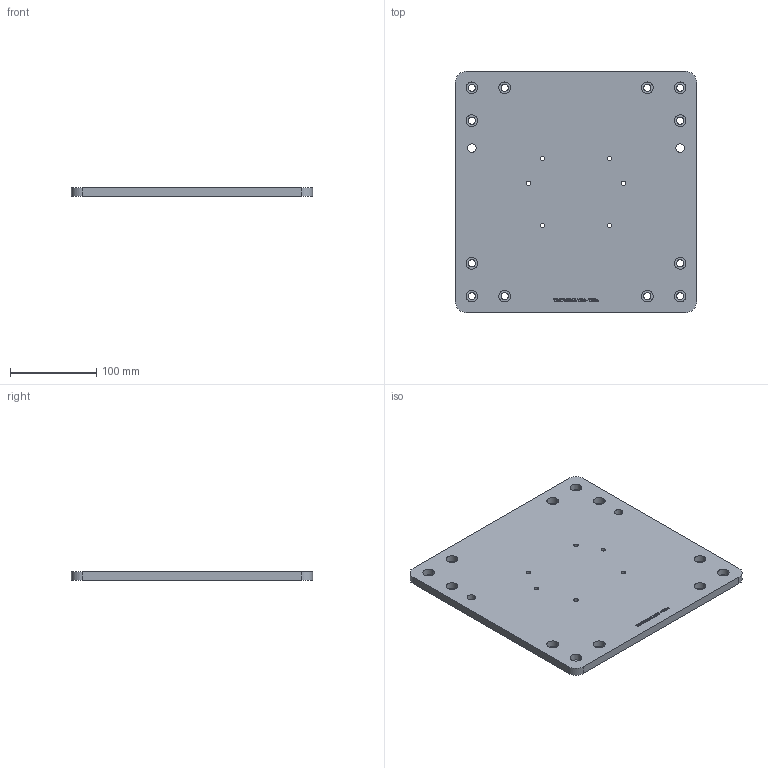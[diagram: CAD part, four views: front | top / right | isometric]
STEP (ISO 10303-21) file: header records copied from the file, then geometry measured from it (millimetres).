
FILE_DESCRIPTION (( 'STEP AP203' ), '1' );
FILE_NAME ('RB-MP-UR3E.STEP', '2019-01-22T18:49:25', ( '' ), ( '' ), 'SwSTEP 2.0', 'SolidWorks 2018', '' );
FILE_SCHEMA (( 'CONFIG_CONTROL_DESIGN' ));
Length unit declared in the file: inch
Products named in the file (1): RB-MP-UR3E
Bounding box: 279.4 x 279.4 x 9.53 mm (x, y, z)
Volume: 724920.2 mm3; surface area: 170583 mm2
Topology: 1 solids, 1 shells, 522 faces, 1467 edges, 978 vertices
Faces by surface type: plane 258, bspline 196, cylinder 68
Entity records: 25590 total; most frequent: CARTESIAN_POINT 13164, ORIENTED_EDGE 2934, DIRECTION 1865, EDGE_CURVE 1467, VERTEX_POINT 978, LINE 939, VECTOR 939, EDGE_LOOP 593
